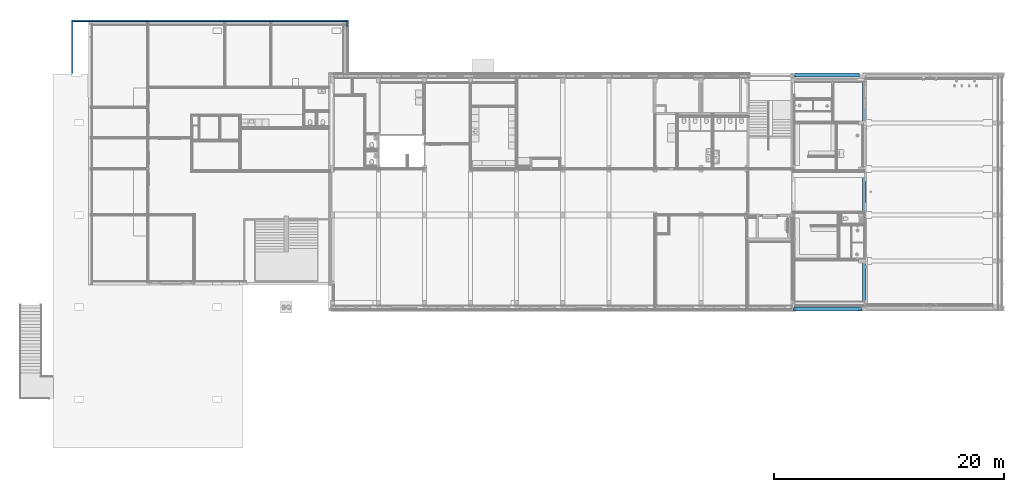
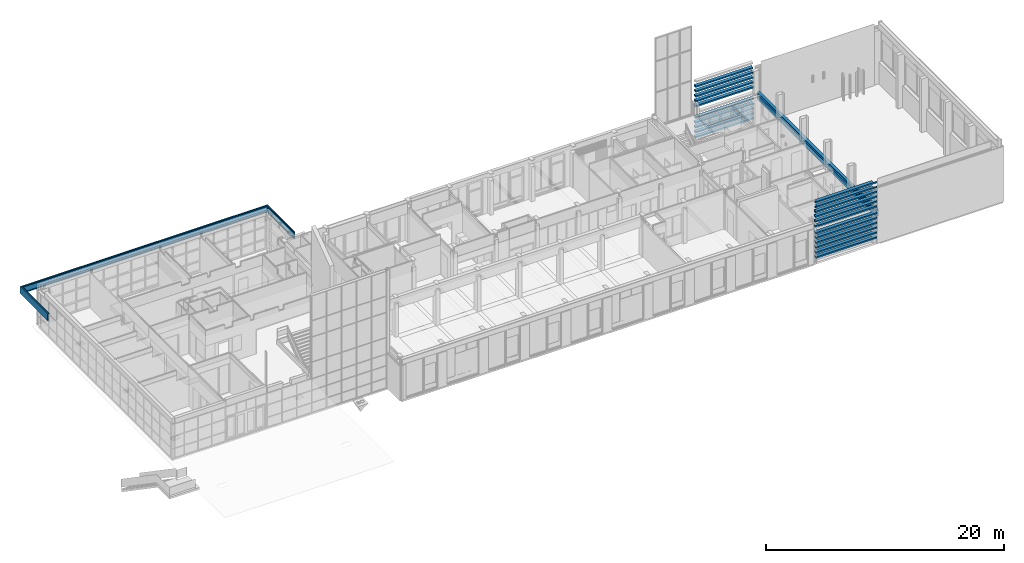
# One storey, part 12 of 109: 26 beams.
"""IFC2X3 building model written with IfcOpenShell, lengths in millimetres."""

from ifc_helpers import new_model, entity, si_unit, converted_unit, derived_unit, money_unit, direction, frame, origin_with_axes, place, context, subcontext, project, spatial, faceted_brep, material, type_object, element, save


model = new_model("IFC2X3")

# Units and contexts
model_context = context("Model", 3, precision=0.01, world=origin_with_axes(), true_north=direction((0.0, 1.0)))
body_context = subcontext(model_context, "Body", "Model", "MODEL_VIEW")
ifc_project = project(units=[si_unit("LENGTHUNIT", "METRE", prefix="MILLI"), si_unit("AREAUNIT", "SQUARE_METRE"), si_unit("VOLUMEUNIT", "CUBIC_METRE"), converted_unit("PLANEANGLEUNIT", "DEGREE", entity("IfcPlaneAngleMeasure", 0.0174532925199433), si_unit("PLANEANGLEUNIT", "RADIAN"), dimensions=[0, 0, 0, 0, 0, 0, 0]), money_unit("EUR"), converted_unit("TIMEUNIT", "Year", entity("IfcTimeMeasure", 31557600.0), si_unit("TIMEUNIT", "SECOND"), dimensions=[0, 0, 1, 0, 0, 0, 0]), si_unit("MASSUNIT", "GRAM", prefix="KILO"), si_unit("THERMODYNAMICTEMPERATUREUNIT", "DEGREE_CELSIUS"), si_unit("LUMINOUSINTENSITYUNIT", "LUMEN"), si_unit("ENERGYUNIT", "JOULE", prefix="MEGA"), derived_unit("THERMALCONDUCTANCEUNIT", [(si_unit("POWERUNIT", "WATT"), 1), (si_unit("LENGTHUNIT", "METRE"), -1), (si_unit("THERMODYNAMICTEMPERATUREUNIT", "KELVIN"), -1)]), derived_unit("SPECIFICHEATCAPACITYUNIT", [(si_unit("ENERGYUNIT", "JOULE"), 1), (si_unit("MASSUNIT", "GRAM", prefix="KILO"), -1), (si_unit("THERMODYNAMICTEMPERATUREUNIT", "KELVIN"), -1)]), derived_unit("MASSDENSITYUNIT", [(si_unit("MASSUNIT", "GRAM", prefix="KILO"), 1), (si_unit("VOLUMEUNIT", "CUBIC_METRE"), -1)])], contexts=[model_context])

# Site, building, storey
site_placement = place(None, origin_with_axes())
site = spatial("IfcSite", under=ifc_project, at=site_placement, Name="<site naam>", CompositionType="ELEMENT")
building_placement = place(site_placement, origin_with_axes())
building = spatial("IfcBuilding", under=site, at=building_placement, Name="<Naam gebouw>", CompositionType="ELEMENT")
storey_placement = place(building_placement, origin_with_axes())
storey = spatial("IfcBuildingStorey", under=building, at=storey_placement, Name="00 Begane grond", CompositionType="ELEMENT", Elevation=0.0)

# Beams
ifc_material_1 = material(Name="beton_gewapend C")
beam_type_1 = type_object("IfcBeamType", Name="beton_gewapend C 280 x 700", PredefinedType="BEAM")
beam_1_placement = place(storey_placement, frame((58325.00000000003, 19999.99999999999, 3187.5), z_axis=(0.0, 0.0, 1.0), x_axis=(-1.0, 0.0, 0.0)))
element("IfcBeam", 1, at=beam_1_placement, inside=storey, type_object=beam_type_1, material=ifc_material_1, Name="28_Balk_beton_gewapend", ObjectType="BEAM", context=body_context, shape_type="Brep", body=[
    faceted_brep([(280.0000000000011, 0.0, -700.0000000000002), (280.0000000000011, 0.0, -209.4999999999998), (167.2171552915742, 0.0, -209.4999999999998), (167.2171552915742, 0.0, -29.49999999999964), (280.0000000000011, 0.0, -29.49999999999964), (280.0000000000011, 0.0, 0.0), (0.0, 0.0, 0.0), (0.0, 0.0, -700.0000000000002), (280.0000000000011, 19949.95463461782, -29.49999999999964), (280.0000000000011, 19949.95463461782, -209.4999999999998), (280.0000000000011, 19989.08932188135, -700.0000000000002), (280.0000000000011, 19989.08932188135, 0.0), (167.2171552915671, 19949.95463461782, -209.4999999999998), (167.2171552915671, 19949.95463461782, -29.49999999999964), (0.0, 19989.08932188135, 0.0), (0.0, 19989.08932188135, -700.0000000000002)], [[[0, 1, 2, 3, 4, 5, 6, 7]], [[8, 9, 1, 0, 10, 11, 5, 4]], [[12, 2, 1, 9]], [[13, 3, 2, 12]], [[8, 4, 3, 13]], [[6, 5, 11, 14]], [[7, 6, 14, 15]], [[0, 7, 15, 10]], [[12, 9, 8, 13]], [[15, 14, 11, 10]]]),
])
ifc_material_2 = material(Name="beton")
beam_type_2 = type_object("IfcBeamType", Name="beton 335 x 150", PredefinedType="BEAM")
beam_2_placement = place(storey_placement, frame((52000.00000000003, -324.0893218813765, 5687.5), z_axis=(0.0, 0.0, 1.0), x_axis=(0.0, -1.0, 0.0)))
element("IfcBeam", 2, at=beam_2_placement, inside=storey, type_object=beam_type_2, material=ifc_material_2, Name="41_Balk_beton", ObjectType="BEAM", context=body_context, shape_type="Brep", body=[
    faceted_brep([(-59.08931758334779, 6000.0, 150.0000000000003), (0.0, 6000.0, 150.0000000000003), (0.0, 6000.0, 0.0), (-59.08931758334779, 6000.0, 0.0), (0.0, 0.0, 150.0000000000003), (-59.08932188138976, 5675.000000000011, 150.0000000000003), (-335.0000000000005, 5675.000000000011, 150.0000000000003), (-334.9999999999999, 175.0000000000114, 150.0000000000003), (-129.089317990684, 175.0000000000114, 150.0000000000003), (-129.0893179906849, 0.0, 150.0000000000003), (0.0, 0.0, 0.0), (-129.089317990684, 175.0000000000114, 0.0), (-334.9999999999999, 175.0000000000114, 0.0), (-335.0000000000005, 5675.000000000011, 0.0), (-59.08932188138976, 5675.000000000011, 0.0), (-129.0893179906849, 0.0, 0.0)], [[[0, 1, 2, 3]], [[4, 1, 0, 5, 6, 7, 8, 9]], [[10, 2, 1, 4]], [[11, 12, 13, 14, 3, 2, 10, 15]], [[0, 3, 14, 5]], [[6, 5, 14, 13]], [[13, 12, 7, 6]], [[8, 7, 12, 11]], [[9, 8, 11, 15]], [[9, 15, 10, 4]]]),
])
beam_3_placement = place(storey_placement, frame((52000.00000000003, -324.0893218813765, 5187.5), z_axis=(0.0, 0.0, 1.0), x_axis=(0.0, -1.0, 0.0)))
element("IfcBeam", 3, at=beam_3_placement, inside=storey, type_object=beam_type_2, material=ifc_material_2, Name="41_Balk_beton", ObjectType="BEAM", context=body_context, shape_type="Brep", body=[
    faceted_brep([(-216.414802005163, 175.0000241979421, 150.0000000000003), (-216.414802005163, 65.00002351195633, 150.0000000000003), (-260.0893218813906, 65.00002351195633, 150.0000000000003), (-260.0893218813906, 0.0, 150.0000000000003), (0.0, 0.0, 150.0000000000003), (0.0, 6000.0, 150.0000000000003), (-335.0000000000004, 6000.0, 150.0000000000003), (-334.9999999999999, 65.00000000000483, 150.0000000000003), (-324.0892758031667, 65.00002351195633, 150.0000000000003), (-324.0892758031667, 175.0000241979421, 150.0000000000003), (-216.414802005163, 65.00002351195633, 0.0), (-216.414802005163, 175.0000241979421, 0.0), (-260.0893218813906, 65.00002351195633, 0.0), (-260.0893218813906, 0.0, 0.0), (0.0, 0.0, 0.0), (0.0, 6000.0, 0.0), (-335.0000000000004, 6000.0, 0.0), (-334.9999999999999, 65.00000000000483, 0.0), (-324.0892758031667, 65.00002351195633, 0.0), (-324.0892758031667, 175.0000241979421, 0.0)], [[[0, 1, 2, 3, 4, 5, 6, 7, 8, 9]], [[10, 1, 0, 11]], [[10, 12, 2, 1]], [[3, 2, 12, 13]], [[14, 4, 3, 13]], [[5, 4, 14, 15]], [[15, 16, 6, 5]], [[6, 16, 17, 7]], [[17, 18, 8, 7]], [[19, 9, 8, 18]], [[11, 0, 9, 19]], [[11, 19, 18, 17, 16, 15, 14, 13, 12, 10]]]),
])
beam_4_placement = place(storey_placement, frame((52000.00000000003, -324.0893218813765, 2500.0), z_axis=(0.0, 0.0, 1.0), x_axis=(0.0, -1.0, 0.0)))
element("IfcBeam", 4, at=beam_4_placement, inside=storey, type_object=beam_type_2, material=ifc_material_2, Name="41_Balk_beton", ObjectType="BEAM", context=body_context, shape_type="Brep", body=[
    faceted_brep([(-335.0000000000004, 6000.0, 0.0), (-334.9999999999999, 65.00000000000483, 0.0), (-334.9999999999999, 65.00000000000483, 149.9999999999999), (-335.0000000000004, 6000.0, 149.9999999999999), (0.0, 6000.0, 0.0), (0.0, 65.00000000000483, 0.0), (0.0, 65.00000000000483, 149.9999999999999), (0.0, 6000.0, 149.9999999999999)], [[[0, 1, 2, 3]], [[4, 5, 1, 0]], [[5, 6, 2, 1]], [[3, 2, 6, 7]], [[0, 3, 7, 4]], [[7, 6, 5, 4]]]),
])
beam_5_placement = place(storey_placement, frame((52000.00000000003, -324.0893218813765, 1510.0), z_axis=(0.0, 0.0, 1.0), x_axis=(0.0, -1.0, 0.0)))
element("IfcBeam", 5, at=beam_5_placement, inside=storey, type_object=beam_type_2, material=ifc_material_2, Name="41_Balk_beton", ObjectType="BEAM", context=body_context, shape_type="Brep", body=[
    faceted_brep([(-335.0000000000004, 6000.0, 0.0), (-334.9999999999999, 65.00000000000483, 0.0), (-334.9999999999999, 65.00000000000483, 149.9999999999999), (-335.0000000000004, 6000.0, 149.9999999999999), (0.0, 6000.0, 0.0), (0.0, 65.00000000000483, 0.0), (0.0, 65.00000000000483, 150.0000000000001), (0.0, 6000.0, 150.0000000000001)], [[[0, 1, 2, 3]], [[4, 5, 1, 0]], [[5, 6, 2, 1]], [[3, 2, 6, 7]], [[0, 3, 7, 4]], [[7, 6, 5, 4]]]),
])
for number, where, z_axis, x_axis, name in (
    (6, (52000.00000000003, -324.0893218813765, 1000.0), (0.0, 0.0, 1.0), (0.0, -1.0, 0.0), "41_Balk_beton"),
    (7, (52000.00000000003, -324.0893218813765, 2000.0), (0.0, 0.0, 1.0), (0.0, -1.0, 0.0), "41_Balk_beton"),
):
    element("IfcBeam", number, at=place(storey_placement, frame(where, z_axis=z_axis, x_axis=x_axis)), inside=storey, type_object=beam_type_2, material=ifc_material_2, Name=name, ObjectType="BEAM", context=body_context, shape_type="Brep", body=[
        faceted_brep([(-335.0000000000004, 6000.0, 0.0), (-334.9999999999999, 65.00000000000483, 0.0), (-334.9999999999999, 65.00000000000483, 149.9999999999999), (-335.0000000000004, 6000.0, 149.9999999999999), (0.0, 6000.0, 0.0), (0.0, 65.00000000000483, 0.0), (0.0, 65.00000000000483, 149.9999999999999), (0.0, 6000.0, 149.9999999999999)], [[[0, 1, 2, 3]], [[4, 5, 1, 0]], [[5, 6, 2, 1]], [[3, 2, 6, 7]], [[0, 3, 7, 4]], [[7, 6, 5, 4]]]),
    ])
beam_6_placement = place(storey_placement, frame((52000.00000000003, -324.0893218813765, 4187.5), z_axis=(0.0, 0.0, 1.0), x_axis=(0.0, -1.0, 0.0)))
element("IfcBeam", 8, at=beam_6_placement, inside=storey, type_object=beam_type_2, material=ifc_material_2, Name="41_Balk_beton", ObjectType="BEAM", context=body_context, shape_type="Brep", body=[
    faceted_brep([(-216.414802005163, 175.0000241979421, 150.0000000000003), (-216.414802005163, 65.00002351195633, 150.0000000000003), (-260.0893218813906, 65.00002351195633, 150.0000000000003), (-260.0893218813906, 0.0, 150.0000000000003), (0.0, 0.0, 150.0000000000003), (0.0, 6000.0, 150.0000000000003), (-334.9999999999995, 6000.0, 150.0000000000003), (-334.9999999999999, 65.00000000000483, 150.0000000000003), (-324.0892758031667, 65.00002351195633, 150.0000000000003), (-324.0892758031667, 175.0000241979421, 150.0000000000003), (-216.414802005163, 65.00002351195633, 62.5), (-216.414802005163, 175.0000241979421, 62.5), (-260.0893218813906, 65.00002351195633, 62.5), (-260.0893218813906, 65.00000000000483, 0.0), (-260.0893218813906, 0.0, 0.0), (-119.0724282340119, 0.0, 92.49993418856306), (0.0, 0.0, 92.49993418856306), (-59.07242362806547, 0.0, 0.0), (-59.07242362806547, 0.0, 22.4999363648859), (-159.0724350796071, 0.0, 22.4999363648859), (-159.0724350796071, 0.0, 122.4999364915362), (-119.0724282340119, 0.0, 122.4999364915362), (0.0, 6000.0, 0.0), (0.0, 310.5294846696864, 92.49993418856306), (0.0, 310.5294846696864, 0.0), (-334.9999999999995, 6000.0, 0.0), (-334.9999999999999, 174.3999999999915, 0.0), (-334.9999999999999, 174.3999999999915, 32.49999999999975), (-334.9999999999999, 65.00000000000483, 32.49999999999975), (-324.0892758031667, 65.00002351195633, 62.5), (-324.5893218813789, 65.00000000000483, 32.49999999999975), (-324.5893218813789, 65.00000000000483, 0.0), (-324.0892758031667, 175.0000241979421, 62.5), (-324.5893218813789, 174.3999999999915, 0.0), (-59.07242362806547, 310.5294846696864, 0.0), (-119.0724282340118, 310.5294846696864, 92.49993418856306), (-59.07242362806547, 310.5294846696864, 22.4999363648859), (-159.0724350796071, 310.5294846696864, 22.4999363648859), (-159.0724350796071, 310.5294846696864, 122.4999364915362), (-119.0724282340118, 310.5294846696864, 122.4999364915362), (-324.5893218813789, 174.3999999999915, 32.49999999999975)], [[[0, 1, 2, 3, 4, 5, 6, 7, 8, 9]], [[10, 1, 0, 11]], [[10, 12, 2, 1]], [[3, 2, 12, 13, 14]], [[15, 16, 4, 3, 14, 17, 18, 19, 20, 21]], [[22, 5, 4, 16, 23, 24]], [[6, 5, 22, 25]], [[25, 26, 27, 28, 7, 6]], [[12, 29, 8, 7, 28, 30, 31, 13]], [[32, 9, 8, 29]], [[11, 0, 9, 32]], [[32, 29, 12, 10, 11]], [[13, 31, 33, 26, 25, 22, 24, 34, 17, 14]], [[23, 16, 15, 35]], [[17, 34, 36, 18]], [[19, 18, 36, 37]], [[20, 19, 37, 38]], [[21, 20, 38, 39]], [[15, 21, 39, 35]], [[39, 38, 37, 36, 34, 24, 23, 35]], [[33, 40, 27, 26]], [[40, 30, 28, 27]], [[30, 40, 33, 31]]]),
])
beam_7_placement = place(storey_placement, frame((52000.00000000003, -324.0893218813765, 4687.5), z_axis=(0.0, 0.0, 1.0), x_axis=(0.0, -1.0, 0.0)))
element("IfcBeam", 9, at=beam_7_placement, inside=storey, type_object=beam_type_2, material=ifc_material_2, Name="41_Balk_beton", ObjectType="BEAM", context=body_context, shape_type="Brep", body=[
    faceted_brep([(-216.414802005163, 175.0000241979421, 150.0000000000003), (-216.414802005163, 65.00002351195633, 150.0000000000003), (-260.0893218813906, 65.00002351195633, 150.0000000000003), (-260.0893218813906, 0.0, 150.0000000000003), (0.0, 0.0, 150.0000000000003), (0.0, 6000.0, 150.0000000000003), (-335.0000000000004, 6000.0, 150.0000000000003), (-334.9999999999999, 65.00000000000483, 150.0000000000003), (-324.0892758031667, 65.00002351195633, 150.0000000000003), (-324.0892758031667, 175.0000241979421, 150.0000000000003), (-216.414802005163, 65.00002351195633, 0.0), (-216.414802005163, 175.0000241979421, 0.0), (-260.0893218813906, 65.00002351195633, 0.0), (-260.0893218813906, 0.0, 0.0), (0.0, 0.0, 0.0), (0.0, 6000.0, 0.0), (-335.0000000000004, 6000.0, 0.0), (-334.9999999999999, 65.00000000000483, 0.0), (-324.0892758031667, 65.00002351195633, 0.0), (-324.0892758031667, 175.0000241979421, 0.0)], [[[0, 1, 2, 3, 4, 5, 6, 7, 8, 9]], [[10, 1, 0, 11]], [[10, 12, 2, 1]], [[3, 2, 12, 13]], [[14, 4, 3, 13]], [[5, 4, 14, 15]], [[15, 16, 6, 5]], [[6, 16, 17, 7]], [[17, 18, 8, 7]], [[19, 9, 8, 18]], [[11, 0, 9, 19]], [[11, 19, 18, 17, 16, 15, 14, 13, 12, 10]]]),
])
beam_8_placement = place(storey_placement, frame((52000.00000000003, -324.0893218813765, 500.0), z_axis=(0.0, 0.0, 1.0), x_axis=(0.0, -1.0, 0.0)))
element("IfcBeam", 10, at=beam_8_placement, inside=storey, type_object=beam_type_2, material=ifc_material_2, Name="41_Balk_beton", ObjectType="BEAM", context=body_context, shape_type="Brep", body=[
    faceted_brep([(-335.0000000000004, 6000.0, 0.0), (-334.9999999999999, 65.00000000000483, 0.0), (-334.9999999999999, 65.00000000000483, 150.0), (-335.0000000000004, 6000.0, 150.0), (0.0, 6000.0, 0.0), (0.0, 65.00000000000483, 0.0), (0.0, 65.00000000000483, 149.9999999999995), (0.0, 6000.0, 150.0)], [[[0, 1, 2, 3]], [[4, 5, 1, 0]], [[5, 6, 2, 1]], [[3, 2, 6, 7]], [[0, 3, 7, 4]], [[7, 6, 5, 4]]]),
])
beam_9_placement = place(storey_placement, frame((52000.00000000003, -324.0893218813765, 3687.5), z_axis=(0.0, 0.0, 1.0), x_axis=(0.0, -1.0, 0.0)))
element("IfcBeam", 11, at=beam_9_placement, inside=storey, type_object=beam_type_2, material=ifc_material_2, Name="41_Balk_beton", ObjectType="BEAM", context=body_context, shape_type="Brep", body=[
    faceted_brep([(-335.0000000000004, 6000.0, 0.0), (-334.9999999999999, 65.00000000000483, 0.0), (-334.9999999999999, 65.00000000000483, 150.0000000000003), (-335.0000000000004, 6000.0, 150.0000000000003), (-260.0893218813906, 0.0, 0.0), (-260.0893218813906, 65.00000000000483, 0.0), (0.0, 6000.0, 0.0), (0.0, 310.5294846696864, 0.0), (-59.07242362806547, 310.5294846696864, 0.0), (-59.07242362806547, 0.0, 0.0), (-260.0893218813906, 65.00000000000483, 150.0000000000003), (-260.0893218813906, 0.0, 150.0000000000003), (-59.07242362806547, 0.0, 150.0000000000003), (-59.07242362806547, 310.5294846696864, 150.0000000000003), (0.0, 310.5294846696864, 150.0000000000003), (0.0, 6000.0, 150.0000000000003)], [[[0, 1, 2, 3]], [[4, 5, 1, 0, 6, 7, 8, 9]], [[5, 10, 2, 1]], [[2, 10, 11, 12, 13, 14, 15, 3]], [[6, 0, 3, 15]], [[4, 11, 10, 5]], [[6, 15, 14, 7]], [[8, 7, 14, 13]], [[9, 8, 13, 12]], [[12, 11, 4, 9]]]),
])
beam_10_placement = place(storey_placement, frame((52105.00000000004, 20324.9999975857, 500.0), z_axis=(0.0, 0.0, 1.0), x_axis=(0.0, -1.0, 0.0)))
element("IfcBeam", 12, at=beam_10_placement, inside=storey, type_object=beam_type_2, material=ifc_material_2, Name="41_Balk_beton", ObjectType="BEAM", context=body_context, shape_type="Brep", body=[
    faceted_brep([(0.0, 0.0, 0.0), (0.0, 5640.499069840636, 0.0), (335.0000000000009, 5640.499069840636, 0.0), (335.0000000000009, 0.0, 0.0), (0.0, 0.0, 150.0), (0.0, 5640.499069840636, 150.0), (335.0000000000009, 5640.499069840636, 149.9999999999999), (335.0000000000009, 0.0, 149.9999999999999)], [[[0, 1, 2, 3]], [[4, 5, 1, 0]], [[2, 1, 5, 6]], [[3, 2, 6, 7]], [[4, 0, 3, 7]], [[7, 6, 5, 4]]]),
])
for number, where, z_axis, x_axis, name in (
    (13, (52105.00000000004, 20324.9999975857, 1000.0), (0.0, 0.0, 1.0), (0.0, -1.0, 0.0), "41_Balk_beton"),
    (14, (52105.00000000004, 20324.9999975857, 1510.0), (0.0, 0.0, 1.0), (0.0, -1.0, 0.0), "41_Balk_beton"),
    (15, (52105.00000000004, 20324.9999975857, 2000.0), (0.0, 0.0, 1.0), (0.0, -1.0, 0.0), "41_Balk_beton"),
    (16, (52105.00000000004, 20324.9999975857, 2500.0), (0.0, 0.0, 1.0), (0.0, -1.0, 0.0), "41_Balk_beton"),
):
    element("IfcBeam", number, at=place(storey_placement, frame(where, z_axis=z_axis, x_axis=x_axis)), inside=storey, type_object=beam_type_2, material=ifc_material_2, Name=name, ObjectType="BEAM", context=body_context, shape_type="Brep", body=[
        faceted_brep([(0.0, 0.0, 0.0), (0.0, 5640.499069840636, 0.0), (335.0000000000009, 5640.499069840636, 0.0), (335.0000000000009, 0.0, 0.0), (0.0, 0.0, 149.9999999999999), (0.0, 5640.499069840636, 149.9999999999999), (335.0000000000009, 5640.499069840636, 149.9999999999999), (335.0000000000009, 0.0, 149.9999999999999)], [[[0, 1, 2, 3]], [[4, 5, 1, 0]], [[2, 1, 5, 6]], [[3, 2, 6, 7]], [[4, 0, 3, 7]], [[7, 6, 5, 4]]]),
    ])
beam_11_placement = place(storey_placement, frame((52105.00000000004, 20324.9999975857, 5687.5), z_axis=(0.0, 0.0, 1.0), x_axis=(0.0, -1.0, 0.0)))
element("IfcBeam", 17, at=beam_11_placement, inside=storey, type_object=beam_type_2, material=ifc_material_2, Name="41_Balk_beton", ObjectType="BEAM", context=body_context, shape_type="Brep", body=[
    faceted_brep([(217.3255014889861, 70.00002419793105, 150.0000000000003), (324.999975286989, 70.00002419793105, 150.0000000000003), (324.999975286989, 0.0, 150.0000000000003), (335.0000000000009, 0.0, 150.0000000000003), (335.0000000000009, 5570.0, 150.0000000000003), (59.99999758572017, 5570.0, 150.0000000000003), (59.99999758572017, 5640.499069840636, 150.0000000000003), (0.0, 5640.499069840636, 150.0000000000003), (0.0, 0.0, 150.0000000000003), (217.3255014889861, 0.0, 150.0000000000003), (324.999975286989, 70.00002419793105, 0.0), (217.3255014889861, 70.00002419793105, 0.0), (324.999975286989, 0.0, 0.0), (335.0000000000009, 0.0, 0.0), (335.0000000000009, 5570.0, 0.0), (59.99999758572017, 5570.0, 0.0), (59.99999758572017, 5640.499069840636, 0.0), (0.0, 5640.499069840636, 0.0), (0.0, 0.0, 0.0), (217.3255014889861, 0.0, 0.0)], [[[0, 1, 2, 3, 4, 5, 6, 7, 8, 9]], [[10, 1, 0, 11]], [[12, 2, 1, 10]], [[3, 2, 12, 13]], [[3, 13, 14, 4]], [[14, 15, 5, 4]], [[5, 15, 16, 6]], [[17, 7, 6, 16]], [[17, 18, 8, 7]], [[18, 19, 9, 8]], [[11, 0, 9, 19]], [[10, 11, 19, 18, 17, 16, 15, 14, 13, 12]]]),
])
beam_12_placement = place(storey_placement, frame((52105.00000000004, 20324.9999975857, 4687.5), z_axis=(0.0, 0.0, 1.0), x_axis=(0.0, -1.0, 0.0)))
element("IfcBeam", 18, at=beam_12_placement, inside=storey, type_object=beam_type_2, material=ifc_material_2, Name="41_Balk_beton", ObjectType="BEAM", context=body_context, shape_type="Brep", body=[
    faceted_brep([(217.3255014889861, 70.00002419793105, 150.0000000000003), (324.999975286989, 70.00002419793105, 150.0000000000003), (324.999975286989, 0.0, 150.0000000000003), (335.0000000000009, 0.0, 150.0000000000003), (335.0000000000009, 5640.499069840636, 150.0000000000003), (0.0, 5640.499069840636, 150.0000000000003), (0.0, 0.0, 150.0000000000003), (217.3255014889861, 0.0, 150.0000000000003), (324.999975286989, 70.00002419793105, 0.0), (217.3255014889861, 70.00002419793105, 0.0), (324.999975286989, 0.0, 0.0), (335.0000000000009, 0.0, 0.0), (335.0000000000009, 5640.499069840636, 0.0), (0.0, 5640.499069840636, 0.0), (0.0, 0.0, 0.0), (217.3255014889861, 0.0, 0.0)], [[[0, 1, 2, 3, 4, 5, 6, 7]], [[8, 1, 0, 9]], [[10, 2, 1, 8]], [[3, 2, 10, 11]], [[3, 11, 12, 4]], [[4, 12, 13, 5]], [[14, 6, 5, 13]], [[14, 15, 7, 6]], [[9, 0, 7, 15]], [[8, 9, 15, 14, 13, 12, 11, 10]]]),
])
beam_13_placement = place(storey_placement, frame((52105.00000000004, 20324.9999975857, 4187.5), z_axis=(0.0, 0.0, 1.0), x_axis=(0.0, -1.0, 0.0)))
element("IfcBeam", 19, at=beam_13_placement, inside=storey, type_object=beam_type_2, material=ifc_material_2, Name="41_Balk_beton", ObjectType="BEAM", context=body_context, shape_type="Brep", body=[
    faceted_brep([(217.3255014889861, 70.00002419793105, 150.0000000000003), (324.999975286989, 70.00002419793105, 150.0000000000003), (324.999975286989, 0.0, 150.0000000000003), (335.0000000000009, 0.0, 150.0000000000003), (335.0000000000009, 5640.499069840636, 150.0000000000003), (0.0, 5640.499069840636, 150.0000000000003), (0.0, 0.0, 150.0000000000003), (217.3255014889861, 0.0, 150.0000000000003), (324.999975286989, 70.00002419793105, 62.5), (217.3255014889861, 70.00002419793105, 62.5), (324.999975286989, 0.0, 62.5), (217.3255014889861, 0.0, 62.5), (0.0, 0.0, 0.0), (335.0000000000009, 0.0, 0.0), (335.0000000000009, 5640.499069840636, 0.0), (0.0, 5640.499069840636, 0.0)], [[[0, 1, 2, 3, 4, 5, 6, 7]], [[8, 1, 0, 9]], [[10, 2, 1, 8]], [[10, 11, 7, 6, 12, 13, 3, 2]], [[3, 13, 14, 4]], [[4, 14, 15, 5]], [[12, 6, 5, 15]], [[9, 0, 7, 11]], [[9, 11, 10, 8]], [[13, 12, 15, 14]]]),
])
beam_14_placement = place(storey_placement, frame((52105.00000000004, 20324.9999975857, 3687.5), z_axis=(0.0, 0.0, 1.0), x_axis=(0.0, -1.0, 0.0)))
element("IfcBeam", 20, at=beam_14_placement, inside=storey, type_object=beam_type_2, material=ifc_material_2, Name="41_Balk_beton", ObjectType="BEAM", context=body_context, shape_type="Brep", body=[
    faceted_brep([(0.0, 0.0, 0.0), (0.0, 5640.499069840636, 0.0), (335.0000000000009, 5640.499069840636, 0.0), (335.0000000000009, 0.0, 0.0), (0.0, 0.0, 149.9999999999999), (0.0, 5640.499069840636, 149.9999999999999), (335.0000000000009, 5640.499069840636, 149.9999999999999), (335.0000000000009, 0.0, 149.9999999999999)], [[[0, 1, 2, 3]], [[4, 5, 1, 0]], [[2, 1, 5, 6]], [[3, 2, 6, 7]], [[4, 0, 3, 7]], [[7, 6, 5, 4]]]),
])
beam_15_placement = place(storey_placement, frame((52105.00000000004, 20324.9999975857, 5187.5), z_axis=(0.0, 0.0, 1.0), x_axis=(0.0, -1.0, 0.0)))
element("IfcBeam", 21, at=beam_15_placement, inside=storey, type_object=beam_type_2, material=ifc_material_2, Name="41_Balk_beton", ObjectType="BEAM", context=body_context, shape_type="Brep", body=[
    faceted_brep([(217.3255014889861, 70.00002419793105, 150.0000000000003), (324.999975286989, 70.00002419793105, 150.0000000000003), (324.999975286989, 0.0, 150.0000000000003), (335.0000000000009, 0.0, 150.0000000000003), (335.0000000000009, 5640.499069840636, 150.0000000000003), (0.0, 5640.499069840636, 150.0000000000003), (0.0, 0.0, 150.0000000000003), (217.3255014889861, 0.0, 150.0000000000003), (324.999975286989, 70.00002419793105, 0.0), (217.3255014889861, 70.00002419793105, 0.0), (324.999975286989, 0.0, 0.0), (335.0000000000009, 0.0, 0.0), (335.0000000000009, 5640.499069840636, 0.0), (0.0, 5640.499069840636, 0.0), (0.0, 0.0, 0.0), (217.3255014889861, 0.0, 0.0)], [[[0, 1, 2, 3, 4, 5, 6, 7]], [[8, 1, 0, 9]], [[10, 2, 1, 8]], [[3, 2, 10, 11]], [[3, 11, 12, 4]], [[4, 12, 13, 5]], [[14, 6, 5, 13]], [[14, 15, 7, 6]], [[9, 0, 7, 15]], [[8, 9, 15, 14, 13, 12, 11, 10]]]),
])
beam_16_placement = place(storey_placement, frame((52000.00000000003, -324.0893218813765, 3000.0), z_axis=(0.0, 0.0, 1.0), x_axis=(0.0, -1.0, 0.0)))
element("IfcBeam", 22, at=beam_16_placement, inside=storey, type_object=beam_type_2, material=ifc_material_2, Name="41_Balk_beton", ObjectType="BEAM", context=body_context, shape_type="Brep", body=[
    faceted_brep([(-335.0000000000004, 6000.0, 0.0), (-334.9999999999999, 65.00000000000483, 0.0), (-334.9999999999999, 65.00000000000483, 149.9999999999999), (-335.0000000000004, 6000.0, 149.9999999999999), (0.0, 6000.0, 0.0), (0.0, 65.00000000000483, 0.0), (0.0, 65.00000000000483, 149.9999999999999), (0.0, 6000.0, 149.9999999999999)], [[[0, 1, 2, 3]], [[4, 5, 1, 0]], [[5, 6, 2, 1]], [[3, 2, 6, 7]], [[0, 3, 7, 4]], [[7, 6, 5, 4]]]),
])
beam_17_placement = place(storey_placement, frame((52000.00000000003, -324.0893218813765, 6187.5), z_axis=(0.0, 0.0, 1.0), x_axis=(0.0, -1.0, 0.0)))
element("IfcBeam", 23, at=beam_17_placement, inside=storey, type_object=beam_type_2, material=ifc_material_2, Name="41_Balk_beton", ObjectType="BEAM", context=body_context, shape_type="Brep", body=[
    faceted_brep([(-59.08932188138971, 6000.0, 150.0000000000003), (0.0, 6000.0, 150.0000000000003), (0.0, 6000.0, 0.0), (-59.08932188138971, 6000.0, 0.0), (0.0, 0.0, 150.0000000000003), (-59.08932188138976, 5675.000000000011, 150.0000000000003), (-335.0000000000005, 5675.000000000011, 150.0000000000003), (-334.9999999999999, 175.0000000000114, 150.0000000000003), (-129.089317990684, 175.0000000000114, 150.0000000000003), (-129.0893179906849, 0.0, 150.0000000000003), (0.0, 0.0, 0.0), (-129.089317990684, 175.0000000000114, 0.0), (-334.9999999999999, 175.0000000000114, 0.0), (-335.0000000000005, 5675.000000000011, 0.0), (-59.08932188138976, 5675.000000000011, 0.0), (-129.0893179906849, 0.0, 0.0)], [[[0, 1, 2, 3]], [[4, 1, 0, 5, 6, 7, 8, 9]], [[10, 2, 1, 4]], [[11, 12, 13, 14, 3, 2, 10, 15]], [[0, 3, 14, 5]], [[6, 5, 14, 13]], [[13, 12, 7, 6]], [[8, 7, 12, 11]], [[9, 8, 11, 15]], [[9, 15, 10, 4]]]),
])
ifc_material_3 = material(Name="beton_gewapend_prefab")
beam_type_3 = type_object("IfcBeamType", Name="Betonbanden 160 x 760", PredefinedType="BEAM")
beam_18_placement = place(storey_placement, frame((-10604.07537140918, 20275.00000000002, 4320.000049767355), z_axis=(0.0, 0.0, 1.0), x_axis=(1.0, 0.0, 0.0)))
element("IfcBeam", 24, at=beam_18_placement, inside=storey, type_object=beam_type_3, material=ifc_material_3, Name="41_Balk_Betonbanden", ObjectType="BEAM", context=body_context, shape_type="Brep", body=[
    faceted_brep([(-59.99999757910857, 0.0, -30.00000230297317), (-59.99999757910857, 4649.999997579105, -30.00000230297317), (-59.99999757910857, 4649.999997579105, -759.9999375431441), (-59.99999757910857, 0.0, -759.9999375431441), (60.00000030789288, 0.0, -30.00000230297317), (60.00000030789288, 4529.999999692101, -30.00000230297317), (60.00000030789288, 4529.999999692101, 0.0), (100.0000071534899, 4489.999992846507, 0.0), (100.0000071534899, 4489.999992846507, -100.0000001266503), (-4.298053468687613e-06, 4590.000004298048, -100.0000001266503), (-4.298053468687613e-06, 4590.000004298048, -690.0000385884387), (29.9999980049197, 4560.000001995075, -690.0000385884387), (29.9999980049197, 4560.000001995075, -660.0000280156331), (60.00000030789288, 4529.999999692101, -660.0000280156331), (60.00000030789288, 4529.999999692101, -759.9999375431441), (-4.298053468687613e-06, 4590.000004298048, -759.9999375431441), (-4.298053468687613e-06, 4590.000004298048, -730.0000145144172), (-29.99999527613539, 4619.999995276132, -730.0000145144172), (-29.99999527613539, 4619.999995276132, -759.9999375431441), (-29.99999527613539, 0.0, -759.9999375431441), (-29.99999527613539, 0.0, -730.0000145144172), (-4.298053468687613e-06, 0.0, -730.0000145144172), (-4.298053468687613e-06, 0.0, -759.9999375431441), (60.00000030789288, 0.0, -759.9999375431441), (60.00000030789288, 0.0, -660.0000280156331), (29.9999980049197, 0.0, -660.0000280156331), (29.9999980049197, 0.0, -690.0000385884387), (-4.298053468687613e-06, 0.0, -690.0000385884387), (-4.298053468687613e-06, 0.0, -100.0000001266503), (100.0000071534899, 0.0, -100.0000001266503), (100.0000071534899, 0.0, 0.0), (60.00000030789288, 0.0, 0.0)], [[[0, 1, 2, 3]], [[4, 5, 1, 0]], [[2, 1, 5, 6, 7, 8, 9, 10, 11, 12, 13, 14, 15, 16, 17, 18]], [[3, 2, 18, 19]], [[4, 0, 3, 19, 20, 21, 22, 23, 24, 25, 26, 27, 28, 29, 30, 31]], [[31, 6, 5, 4]], [[30, 7, 6, 31]], [[29, 8, 7, 30]], [[28, 9, 8, 29]], [[27, 10, 9, 28]], [[26, 11, 10, 27]], [[25, 12, 11, 26]], [[24, 13, 12, 25]], [[23, 14, 13, 24]], [[22, 15, 14, 23]], [[21, 16, 15, 22]], [[20, 17, 16, 21]], [[19, 18, 17, 20]]]),
])
beam_19_placement = place(storey_placement, frame((13325.0000098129, 20324.99999757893, 4320.000049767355), z_axis=(0.0, 0.0, 1.0), x_axis=(1.0, 0.0, 0.0)))
element("IfcBeam", 25, at=beam_19_placement, inside=storey, type_object=beam_type_3, material=ifc_material_3, Name="41_Balk_Betonbanden", ObjectType="BEAM", context=body_context, shape_type="Brep", body=[
    faceted_brep([(-60.00000030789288, 0.0, -30.00000230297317), (-60.00000030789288, 4480.000002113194, -30.00000230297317), (-60.00000030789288, 4480.000002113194, 0.0), (-60.00000030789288, 0.0, 0.0), (59.99999757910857, 0.0, -30.00000230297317), (59.99999757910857, 4600.000000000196, -30.00000230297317), (59.99999757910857, 4600.000000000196, -759.9999375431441), (29.99999527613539, 4569.999997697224, -759.9999375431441), (29.99999527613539, 4569.999997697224, -730.0000145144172), (4.298053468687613e-06, 4540.000006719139, -730.0000145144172), (4.298053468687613e-06, 4540.000006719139, -759.9999375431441), (-60.00000030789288, 4480.000002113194, -759.9999375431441), (-60.00000030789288, 4480.000002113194, -660.0000280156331), (-29.9999980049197, 4510.000004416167, -660.0000280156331), (-29.9999980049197, 4510.000004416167, -690.0000385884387), (4.298053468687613e-06, 4540.000006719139, -690.0000385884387), (4.298053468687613e-06, 4540.000006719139, -100.0000001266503), (-100.0000071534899, 4439.999995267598, -100.0000001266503), (-100.0000071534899, 4439.999995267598, 0.0), (-100.0000071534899, 0.0, 0.0), (-100.0000071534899, 0.0, -100.0000001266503), (4.298053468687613e-06, 0.0, -100.0000001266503), (4.298053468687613e-06, 0.0, -690.0000385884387), (-29.9999980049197, 0.0, -690.0000385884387), (-29.9999980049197, 0.0, -660.0000280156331), (-60.00000030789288, 0.0, -660.0000280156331), (-60.00000030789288, 0.0, -759.9999375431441), (4.298053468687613e-06, 0.0, -759.9999375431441), (4.298053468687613e-06, 0.0, -730.0000145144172), (29.99999527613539, 0.0, -730.0000145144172), (29.99999527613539, 0.0, -759.9999375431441), (59.99999757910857, 0.0, -759.9999375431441)], [[[0, 1, 2, 3]], [[4, 5, 1, 0]], [[2, 1, 5, 6, 7, 8, 9, 10, 11, 12, 13, 14, 15, 16, 17, 18]], [[3, 2, 18, 19]], [[4, 0, 3, 19, 20, 21, 22, 23, 24, 25, 26, 27, 28, 29, 30, 31]], [[31, 6, 5, 4]], [[30, 7, 6, 31]], [[29, 8, 7, 30]], [[28, 9, 8, 29]], [[27, 10, 9, 28]], [[26, 11, 10, 27]], [[25, 12, 11, 26]], [[24, 13, 12, 25]], [[23, 14, 13, 24]], [[22, 15, 14, 23]], [[21, 16, 15, 22]], [[20, 17, 16, 21]], [[19, 18, 17, 20]]]),
])
beam_20_placement = place(storey_placement, frame((13325.00000981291, 24865.00000000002, 4320.000049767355), z_axis=(0.0, 0.0, 1.0), x_axis=(0.0, 1.0, 0.0)))
element("IfcBeam", 26, at=beam_20_placement, inside=storey, type_object=beam_type_3, material=ifc_material_3, Name="41_Balk_Betonbanden", ObjectType="BEAM", context=body_context, shape_type="Brep", body=[
    faceted_brep([(-60.00000030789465, 60.00000030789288, -30.00000230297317), (-60.00000030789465, 23869.0753809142, -30.00000230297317), (-60.00000030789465, 23869.0753809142, 0.0), (-60.00000030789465, 60.00000030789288, 0.0), (59.99999757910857, -59.99999757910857, -30.00000230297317), (59.99999757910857, 23989.0753788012, -30.00000230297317), (59.99999757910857, 23989.0753788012, -759.9999375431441), (29.99999527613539, 23959.07537649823, -759.9999375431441), (29.99999527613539, 23959.07537649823, -730.0000145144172), (4.298051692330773e-06, 23929.07538552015, -730.0000145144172), (4.298051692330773e-06, 23929.07538552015, -759.9999375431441), (-60.00000030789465, 23869.0753809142, -759.9999375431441), (-60.00000030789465, 23869.0753809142, -660.0000280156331), (-29.99999800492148, 23899.07538321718, -660.0000280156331), (-29.99999800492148, 23899.07538321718, -690.0000385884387), (4.298051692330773e-06, 23929.07538552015, -690.0000385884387), (4.298051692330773e-06, 23929.07538552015, -100.0000001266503), (-100.0000071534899, 23829.07537406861, -100.0000001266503), (-100.0000071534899, 23829.07537406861, 0.0), (-100.0000071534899, 100.0000071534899, 0.0), (-100.0000071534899, 100.0000071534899, -100.0000001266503), (4.298051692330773e-06, -4.298053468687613e-06, -100.0000001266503), (4.298051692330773e-06, -4.298053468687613e-06, -690.0000385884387), (-29.99999800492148, 29.9999980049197, -690.0000385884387), (-29.99999800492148, 29.9999980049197, -660.0000280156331), (-60.00000030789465, 60.00000030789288, -660.0000280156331), (-60.00000030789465, 60.00000030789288, -759.9999375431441), (4.298051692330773e-06, -4.298053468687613e-06, -759.9999375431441), (4.298051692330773e-06, -4.298053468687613e-06, -730.0000145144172), (29.99999527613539, -29.99999527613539, -730.0000145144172), (29.99999527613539, -29.99999527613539, -759.9999375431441), (59.99999757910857, -59.99999757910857, -759.9999375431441)], [[[0, 1, 2, 3]], [[4, 5, 1, 0]], [[2, 1, 5, 6, 7, 8, 9, 10, 11, 12, 13, 14, 15, 16, 17, 18]], [[3, 2, 18, 19]], [[4, 0, 3, 19, 20, 21, 22, 23, 24, 25, 26, 27, 28, 29, 30, 31]], [[31, 6, 5, 4]], [[30, 7, 6, 31]], [[29, 8, 7, 30]], [[28, 9, 8, 29]], [[27, 10, 9, 28]], [[26, 11, 10, 27]], [[25, 12, 11, 26]], [[24, 13, 12, 25]], [[23, 14, 13, 24]], [[22, 15, 14, 23]], [[21, 16, 15, 22]], [[20, 17, 16, 21]], [[19, 18, 17, 20]]]),
])

save(model, "model.ifc")
